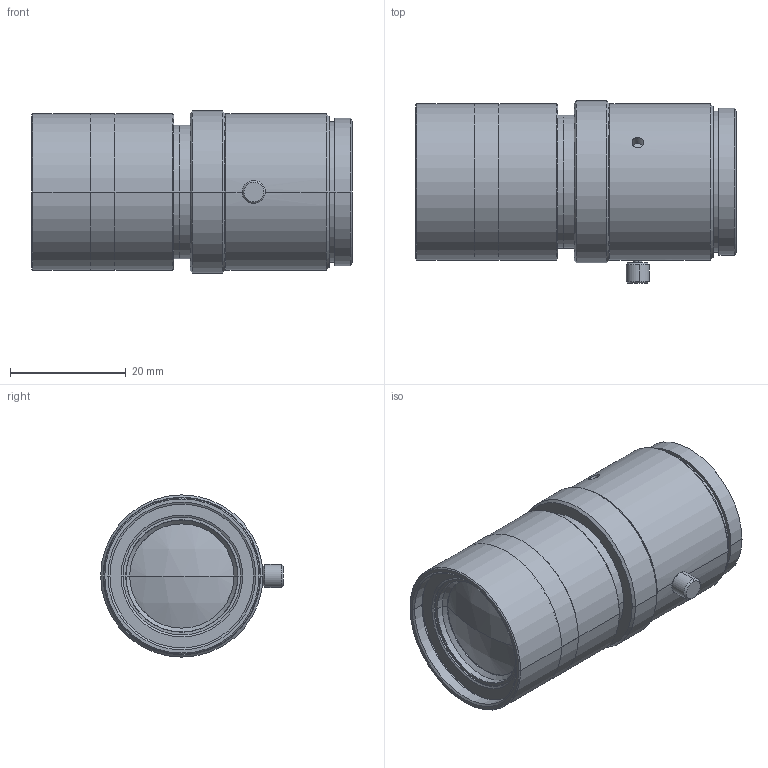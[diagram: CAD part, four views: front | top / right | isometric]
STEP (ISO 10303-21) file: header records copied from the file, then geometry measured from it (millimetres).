
FILE_DESCRIPTION (( 'STEP AP214' ), '1' );
FILE_NAME ('M5056-MPW2-R.STEP', '2021-04-19T23:39:52', ( '' ), ( '' ), 'SwSTEP 2.0', 'SolidWorks 2021', '' );
FILE_SCHEMA (( 'AUTOMOTIVE_DESIGN' ));
Length unit declared in the file: millimetre
Products named in the file (4): M5056-MPW2-R_MechanicalLimit; M5056-MPW2-R; ロックビス; M5056-MPW2-R_Infinity
Assembly tree (3 placements, depth 2):
  M5056-MPW2-R
    M5056-MPW2-R_Infinity
    M5056-MPW2-R_MechanicalLimit
    ロックビス
Bounding box: 55.33 x 31.5 x 28 mm (x, y, z)
Volume: 38303.4 mm3; surface area: 15066.9 mm2
Topology: 3 solids, 3 shells, 206 faces, 408 edges, 242 vertices
Faces by surface type: cylinder 86, cone 74, plane 38, sphere 8
Entity records: 7696 total; most frequent: DIRECTION 1054, CARTESIAN_POINT 1054, ORIENTED_EDGE 816, AXIS2_PLACEMENT_3D 446, EDGE_CURVE 408, VERTEX_POINT 242, EDGE_LOOP 240, CIRCLE 234
